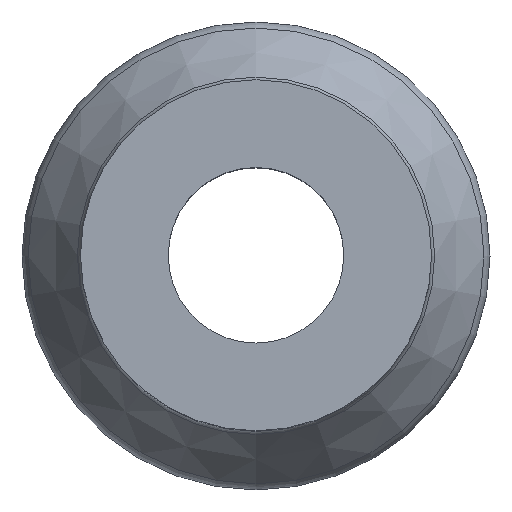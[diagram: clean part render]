
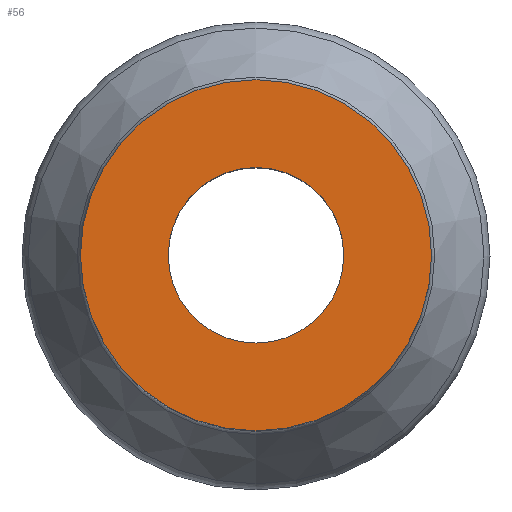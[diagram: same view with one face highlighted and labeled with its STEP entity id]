
A CAD part, top view. The second image highlights one B-rep face of the part: STEP entity #56.
In plain terms, the highlighted planar face has unit normal (0, 0, 1).
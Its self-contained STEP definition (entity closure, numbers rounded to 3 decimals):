
#56=ADVANCED_FACE('',(#125,#126),#127,.F.);
#125=FACE_OUTER_BOUND('',#212,.T.);
#126=FACE_BOUND('',#213,.T.);
#127=PLANE('',#214);
#212=EDGE_LOOP('',(#339));
#213=EDGE_LOOP('',(#340));
#214=AXIS2_PLACEMENT_3D('',#341,#342,#343);
#339=ORIENTED_EDGE('',*,*,#438,.T.);
#340=ORIENTED_EDGE('',*,*,#439,.F.);
#341=CARTESIAN_POINT('',(5.0,0.,15.9));
#342=DIRECTION('',(0.0,0.,-1.0));
#343=DIRECTION('',(0.0,-1.0,0.));
#438=EDGE_CURVE('',#490,#490,#491,.F.);
#439=EDGE_CURVE('',#492,#492,#493,.T.);
#490=VERTEX_POINT('',#550);
#491=CIRCLE('',#551,4.5);
#492=VERTEX_POINT('',#552);
#493=CIRCLE('',#553,2.25);
#550=CARTESIAN_POINT('',(0.,4.5,15.9));
#551=AXIS2_PLACEMENT_3D('',#615,#616,#617);
#552=CARTESIAN_POINT('',(0.0,-2.25,15.9));
#553=AXIS2_PLACEMENT_3D('',#618,#619,#620);
#615=CARTESIAN_POINT('',(0.0,0.,15.9));
#616=DIRECTION('',(0.0,0.,-1.0));
#617=DIRECTION('',(0.0,1.0,0.));
#618=CARTESIAN_POINT('',(0.0,0.,15.9));
#619=DIRECTION('',(0.0,0.,1.0));
#620=DIRECTION('',(0.0,-1.0,0.));
